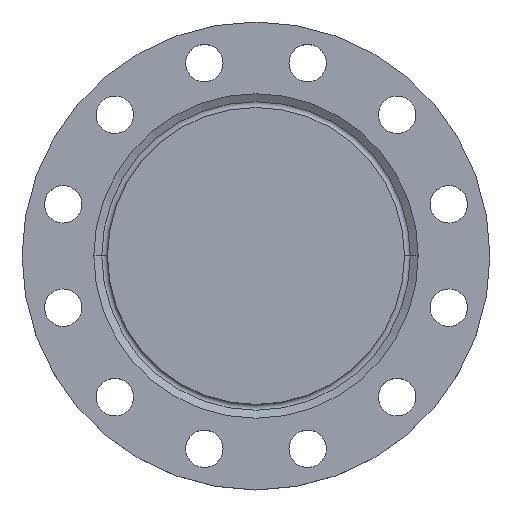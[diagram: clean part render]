
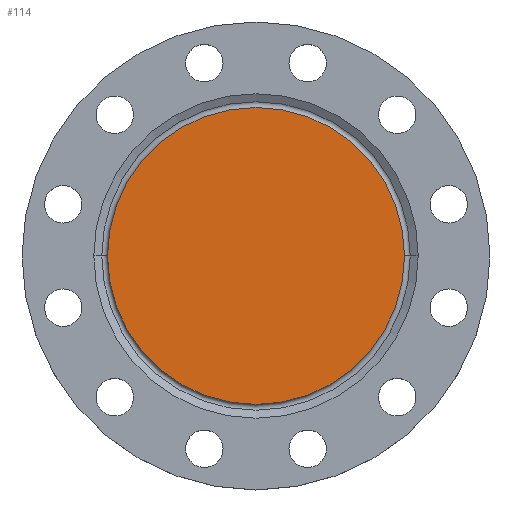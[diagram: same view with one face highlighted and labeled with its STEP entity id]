
A CAD part, top view. The second image highlights one B-rep face of the part: STEP entity #114.
In plain terms, the highlighted planar face has unit normal (0, 0, 1).
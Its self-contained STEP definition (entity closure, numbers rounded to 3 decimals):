
#37 = AXIS2_PLACEMENT_3D ( 'NONE', #134, #125, #126 ) ;
#58 = CIRCLE ( 'NONE', #77, 119. ) ;
#77 = AXIS2_PLACEMENT_3D ( 'NONE', #639, #631, #630 ) ;
#114 = ADVANCED_FACE ( 'NONE', ( #765 ), #764, .T. ) ;
#122 = CARTESIAN_POINT ( 'NONE',  ( -119., 0., 0. ) ) ;
#125 = DIRECTION ( 'NONE',  ( 0., 0., -1. ) ) ;
#126 = DIRECTION ( 'NONE',  ( -1., 0., 0. ) ) ;
#134 = CARTESIAN_POINT ( 'NONE',  ( 0., 0., 0. ) ) ;
#318 = AXIS2_PLACEMENT_3D ( 'NONE', #762, #760, #759 ) ;
#505 = EDGE_CURVE ( 'NONE', #833, #1249, #58, .T. ) ;
#574 = CARTESIAN_POINT ( 'NONE',  ( 119., 0., 0. ) ) ;
#630 = DIRECTION ( 'NONE',  ( -1., 0., 0. ) ) ;
#631 = DIRECTION ( 'NONE',  ( 0., 0., -1. ) ) ;
#639 = CARTESIAN_POINT ( 'NONE',  ( 0., 0., 0. ) ) ;
#759 = DIRECTION ( 'NONE',  ( 1., 0., 0. ) ) ;
#760 = DIRECTION ( 'NONE',  ( 0., 0., 1. ) ) ;
#762 = CARTESIAN_POINT ( 'NONE',  ( 0., 0., 0. ) ) ;
#764 = PLANE ( 'NONE',  #318 ) ;
#765 = FACE_OUTER_BOUND ( 'NONE', #827, .T. ) ;
#827 = EDGE_LOOP ( 'NONE', ( #1029, #1030 ) ) ;
#833 = VERTEX_POINT ( 'NONE', #574 ) ;
#901 = CIRCLE ( 'NONE', #37, 119. ) ;
#1029 = ORIENTED_EDGE ( 'NONE', *, *, #1251, .F. ) ;
#1030 = ORIENTED_EDGE ( 'NONE', *, *, #505, .F. ) ;
#1249 = VERTEX_POINT ( 'NONE', #122 ) ;
#1251 = EDGE_CURVE ( 'NONE', #1249, #833, #901, .T. ) ;
